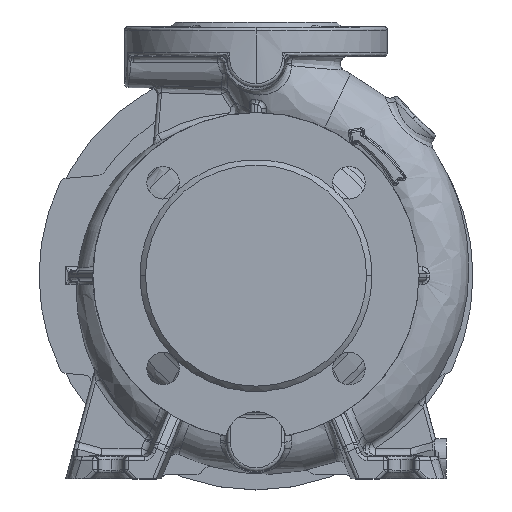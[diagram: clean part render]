
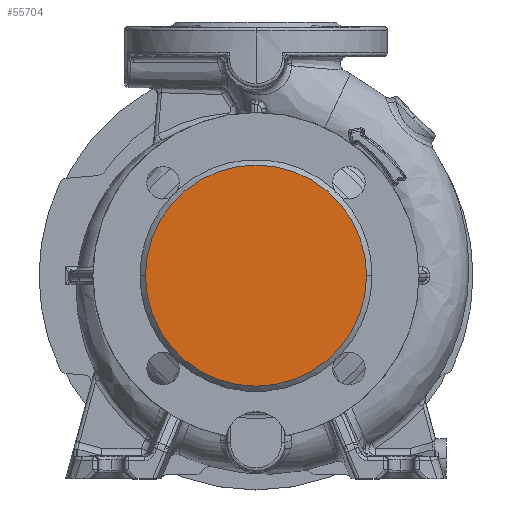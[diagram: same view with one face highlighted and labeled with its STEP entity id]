
A CAD part, top view. The second image highlights one B-rep face of the part: STEP entity #55704.
In plain terms, the highlighted planar face has unit normal (0, 0, 1).
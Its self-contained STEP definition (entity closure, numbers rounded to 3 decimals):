
#6290 = CIRCLE ( 'NONE', #57444, 61. ) ;
#8906 = ORIENTED_EDGE ( 'NONE', *, *, #37271, .T. ) ;
#14551 = DIRECTION ( 'NONE',  ( 0., 0., 1. ) ) ;
#16857 = DIRECTION ( 'NONE',  ( 0., 0., 1. ) ) ;
#18840 = VERTEX_POINT ( 'NONE', #34244 ) ;
#22063 = CIRCLE ( 'NONE', #70103, 61. ) ;
#30811 = DIRECTION ( 'NONE',  ( 1., 0., 0. ) ) ;
#33637 = PLANE ( 'NONE',  #60118 ) ;
#34244 = CARTESIAN_POINT ( 'NONE',  ( 61., 0., 80. ) ) ;
#35095 = CARTESIAN_POINT ( 'NONE',  ( -61., 0., 80. ) ) ;
#37271 = EDGE_CURVE ( 'NONE', #18840, #73161, #22063, .T. ) ;
#39612 = DIRECTION ( 'NONE',  ( 1., 0., 0. ) ) ;
#40046 = CARTESIAN_POINT ( 'NONE',  ( 0., 0., 80. ) ) ;
#44577 = EDGE_CURVE ( 'NONE', #73161, #18840, #6290, .T. ) ;
#45053 = DIRECTION ( 'NONE',  ( 0., 0., 1. ) ) ;
#45100 = CARTESIAN_POINT ( 'NONE',  ( 0., 0., 80. ) ) ;
#46529 = EDGE_LOOP ( 'NONE', ( #72471, #8906 ) ) ;
#53239 = FACE_OUTER_BOUND ( 'NONE', #46529, .T. ) ;
#55704 = ADVANCED_FACE ( 'NONE', ( #53239 ), #33637, .T. ) ;
#57444 = AXIS2_PLACEMENT_3D ( 'NONE', #45100, #16857, #39612 ) ;
#59536 = CARTESIAN_POINT ( 'NONE',  ( 0., 0., 80. ) ) ;
#60118 = AXIS2_PLACEMENT_3D ( 'NONE', #40046, #45053, #67993 ) ;
#67993 = DIRECTION ( 'NONE',  ( 1., 0., 0. ) ) ;
#70103 = AXIS2_PLACEMENT_3D ( 'NONE', #59536, #14551, #30811 ) ;
#72471 = ORIENTED_EDGE ( 'NONE', *, *, #44577, .T. ) ;
#73161 = VERTEX_POINT ( 'NONE', #35095 ) ;
